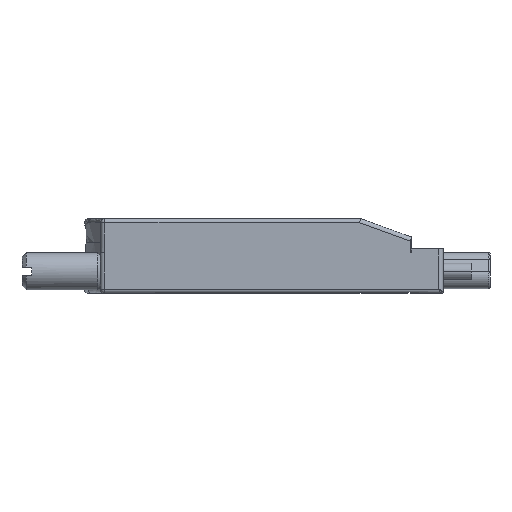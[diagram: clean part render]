
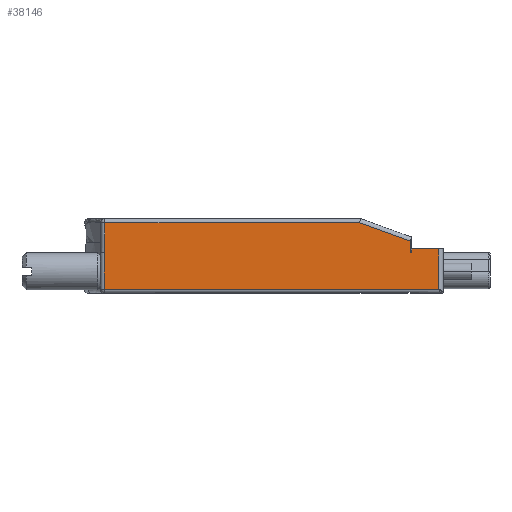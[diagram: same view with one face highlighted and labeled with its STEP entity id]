
A CAD part, front view. The second image highlights one B-rep face of the part: STEP entity #38146.
In plain terms, the highlighted planar face has unit normal (0, -1, 0).
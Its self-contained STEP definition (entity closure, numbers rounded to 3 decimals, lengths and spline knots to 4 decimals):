
#108=DIRECTION('',(1.,0.,0.));
#109=VECTOR('',#108,1.62);
#110=CARTESIAN_POINT('',(-1.64,-0.8285,-0.178));
#111=LINE('',#110,#109);
#152=CARTESIAN_POINT('',(-1.639,-0.8285,0.));
#153=CARTESIAN_POINT('',(-1.6388,-0.8285,0.));
#154=CARTESIAN_POINT('',(-1.6385,-0.8285,0.));
#155=CARTESIAN_POINT('',(-1.6382,-0.8285,0.));
#156=CARTESIAN_POINT('',(-1.638,-0.8285,0.));
#158=DIRECTION('',(-1.,0.,0.));
#159=VECTOR('',#158,1.2345);
#160=CARTESIAN_POINT('',(-0.4035,-0.8285,0.145));
#161=LINE('',#160,#159);
#162=DIRECTION('',(-0.94,0.,0.342));
#163=VECTOR('',#162,0.2637);
#164=CARTESIAN_POINT('',(-0.1557,-0.8285,
0.0548));
#165=LINE('',#164,#163);
#166=DIRECTION('',(0.,0.,1.));
#167=VECTOR('',#166,0.0548);
#168=CARTESIAN_POINT('',(-0.1557,-0.8285,0.));
#169=LINE('',#168,#167);
#170=DIRECTION('',(0.,0.,-1.));
#171=VECTOR('',#170,0.0177);
#172=CARTESIAN_POINT('',(-0.1528,-0.8285,0.0177));
#173=LINE('',#172,#171);
#174=DIRECTION('',(-1.,0.,0.));
#175=VECTOR('',#174,0.1328);
#176=CARTESIAN_POINT('',(-0.02,-0.8285,0.0177));
#177=LINE('',#176,#175);
#178=DIRECTION('',(0.,0.,1.));
#179=VECTOR('',#178,0.1957);
#180=CARTESIAN_POINT('',(-0.02,-0.8285,-0.178));
#181=LINE('',#180,#179);
#182=DIRECTION('',(0.,0.,-1.));
#183=VECTOR('',#182,0.178);
#184=CARTESIAN_POINT('',(-1.64,-0.8285,0.));
#185=LINE('',#184,#183);
#186=CARTESIAN_POINT('',(-1.64,-0.8285,0.));
#187=CARTESIAN_POINT('',(-1.6398,-0.8285,0.));
#188=CARTESIAN_POINT('',(-1.6395,-0.8285,0.));
#189=CARTESIAN_POINT('',(-1.6392,-0.8285,0.));
#190=CARTESIAN_POINT('',(-1.639,-0.8285,0.));
#192=DIRECTION('',(0.,0.,-1.));
#193=VECTOR('',#192,0.145);
#194=CARTESIAN_POINT('',(-1.638,-0.8285,0.145));
#195=LINE('',#194,#193);
#208=CARTESIAN_POINT('',(-1.64,-0.8285,0.));
#6557=CARTESIAN_POINT('',(-1.638,-0.8285,0.145));
#6703=DIRECTION('',(-1.,0.,0.));
#6704=VECTOR('',#6703,0.003);
#6705=CARTESIAN_POINT('',(-0.1528,-0.8285,0.));
#6706=LINE('',#6705,#6704);
#6711=CARTESIAN_POINT('',(-0.4035,-0.8285,0.145));
#29681=CARTESIAN_POINT('',(-1.64,-0.8285,-0.178));
#29683=VERTEX_POINT('',#29681);
#29684=CARTESIAN_POINT('',(-0.1528,-0.8285,0.0177));
#29685=CARTESIAN_POINT('',(-0.1528,-0.8285,0.));
#29686=VERTEX_POINT('',#29684);
#29687=VERTEX_POINT('',#29685);
#29688=CARTESIAN_POINT('',(-0.02,-0.8285,0.0177));
#29689=VERTEX_POINT('',#29688);
#32692=CARTESIAN_POINT('',(-0.02,-0.8285,-0.178));
#32693=VERTEX_POINT('',#32692);
#33781=VERTEX_POINT('',#6557);
#33794=VERTEX_POINT('',#6711);
#36702=CARTESIAN_POINT('',(-0.1557,-0.8285,
0.0548));
#36703=VERTEX_POINT('',#36702);
#37423=VERTEX_POINT('',#208);
#37424=VERTEX_POINT('',#190);
#37425=VERTEX_POINT('',#156);
#37427=CARTESIAN_POINT('',(-0.1557,-0.8285,0.));
#37429=VERTEX_POINT('',#37427);
#38116=CARTESIAN_POINT('',(-0.83,-0.8285,-0.0801));
#38117=DIRECTION('',(0.,1.,0.));
#38118=DIRECTION('',(-1.,0.,0.));
#38119=AXIS2_PLACEMENT_3D('',#38116,#38117,#38118);
#38120=PLANE('',#38119);
#38122=ORIENTED_EDGE('',*,*,#38121,.T.);
#38124=ORIENTED_EDGE('',*,*,#38123,.F.);
#38126=ORIENTED_EDGE('',*,*,#38125,.F.);
#38128=ORIENTED_EDGE('',*,*,#38127,.F.);
#38130=ORIENTED_EDGE('',*,*,#38129,.F.);
#38132=ORIENTED_EDGE('',*,*,#38131,.F.);
#38134=ORIENTED_EDGE('',*,*,#38133,.F.);
#38136=ORIENTED_EDGE('',*,*,#38135,.F.);
#38138=ORIENTED_EDGE('',*,*,#38137,.F.);
#38139=ORIENTED_EDGE('',*,*,#38091,.F.);
#38141=ORIENTED_EDGE('',*,*,#38140,.F.);
#38143=ORIENTED_EDGE('',*,*,#38142,.T.);
#38144=EDGE_LOOP('',(#38122,#38124,#38126,#38128,#38130,#38132,#38134,#38136,
#38138,#38139,#38141,#38143));
#38145=FACE_OUTER_BOUND('',#38144,.F.);
#38146=ADVANCED_FACE('',(#38145),#38120,.F.);
#157=B_SPLINE_CURVE_WITH_KNOTS('',3,(#152,#153,#154,#155,#156),.UNSPECIFIED.,
.F.,.F.,(4,1,4),(0.,0.5,1.),.UNSPECIFIED.);
#191=B_SPLINE_CURVE_WITH_KNOTS('',3,(#186,#187,#188,#189,#190),.UNSPECIFIED.,
.F.,.F.,(4,1,4),(0.,0.5,1.),.UNSPECIFIED.);
#38091=EDGE_CURVE('',#29683,#32693,#111,.T.);
#38121=EDGE_CURVE('',#37424,#37425,#157,.T.);
#38123=EDGE_CURVE('',#33781,#37425,#195,.T.);
#38125=EDGE_CURVE('',#33794,#33781,#161,.T.);
#38127=EDGE_CURVE('',#36703,#33794,#165,.T.);
#38129=EDGE_CURVE('',#37429,#36703,#169,.T.);
#38131=EDGE_CURVE('',#29687,#37429,#6706,.T.);
#38133=EDGE_CURVE('',#29686,#29687,#173,.T.);
#38135=EDGE_CURVE('',#29689,#29686,#177,.T.);
#38137=EDGE_CURVE('',#32693,#29689,#181,.T.);
#38140=EDGE_CURVE('',#37423,#29683,#185,.T.);
#38142=EDGE_CURVE('',#37423,#37424,#191,.T.);
